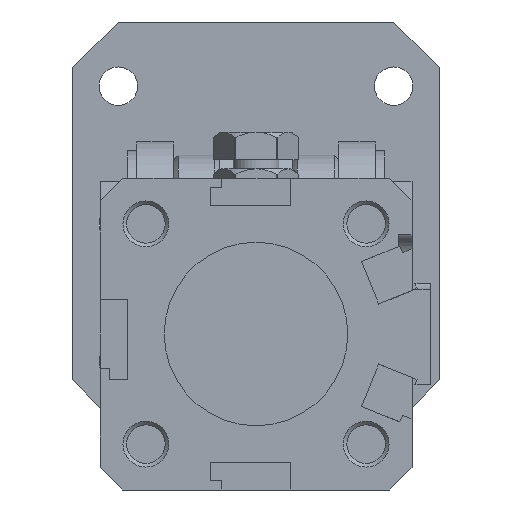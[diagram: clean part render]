
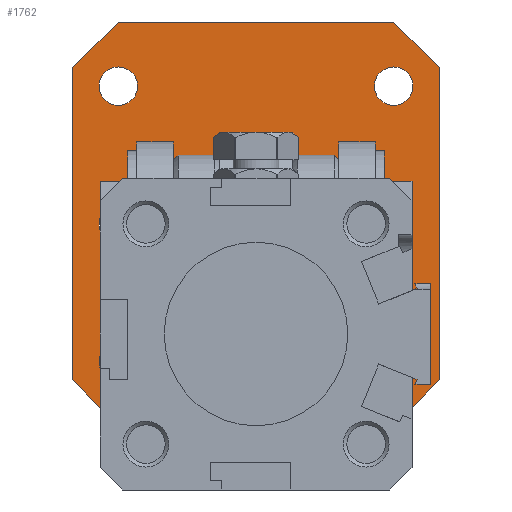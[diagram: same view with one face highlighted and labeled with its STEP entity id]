
A CAD part, front view. The second image highlights one B-rep face of the part: STEP entity #1762.
In plain terms, the highlighted planar face has unit normal (0, -1, 0).
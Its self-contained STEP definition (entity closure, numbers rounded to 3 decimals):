
#1762=ADVANCED_FACE('',(#10667,#10668,#10669,#10670,#10671,#10672,#10673,
#10674),#3091,.F.);
#3091=PLANE('',#26347);
#4233=LINE('',#34781,#7450);
#4234=LINE('',#34784,#7451);
#4235=LINE('',#34786,#7452);
#4236=LINE('',#34788,#7453);
#4237=LINE('',#34790,#7454);
#4238=LINE('',#34792,#7455);
#4239=LINE('',#34794,#7456);
#4240=LINE('',#34796,#7457);
#4241=LINE('',#34797,#7458);
#4242=LINE('',#34800,#7459);
#4243=LINE('',#34802,#7460);
#4244=LINE('',#34804,#7461);
#7450=VECTOR('',#28091,1.);
#7451=VECTOR('',#28092,1.);
#7452=VECTOR('',#28093,1.);
#7453=VECTOR('',#28094,1.);
#7454=VECTOR('',#28095,1.);
#7455=VECTOR('',#28096,1.);
#7456=VECTOR('',#28097,1.);
#7457=VECTOR('',#28098,1.);
#7458=VECTOR('',#28099,1.);
#7459=VECTOR('',#28100,1.);
#7460=VECTOR('',#28101,1.);
#7461=VECTOR('',#28102,1.);
#10667=FACE_BOUND('',#10885,.T.);
#10668=FACE_BOUND('',#10886,.T.);
#10669=FACE_BOUND('',#10887,.T.);
#10670=FACE_BOUND('',#10888,.T.);
#10671=FACE_BOUND('',#10889,.T.);
#10672=FACE_BOUND('',#10890,.T.);
#10673=FACE_BOUND('',#10891,.T.);
#10674=FACE_BOUND('',#10892,.T.);
#10885=EDGE_LOOP('',(#12334));
#10886=EDGE_LOOP('',(#12335));
#10887=EDGE_LOOP('',(#12336));
#10888=EDGE_LOOP('',(#12337));
#10889=EDGE_LOOP('',(#12338));
#10890=EDGE_LOOP('',(#12339));
#10891=EDGE_LOOP('',(#12340,#12341,#12342,#12343,#12344,#12345,#12346,#12347));
#10892=EDGE_LOOP('',(#12348,#12349,#12350,#12351));
#12334=ORIENTED_EDGE('',*,*,#22314,.F.);
#12335=ORIENTED_EDGE('',*,*,#22315,.F.);
#12336=ORIENTED_EDGE('',*,*,#22316,.F.);
#12337=ORIENTED_EDGE('',*,*,#22317,.F.);
#12338=ORIENTED_EDGE('',*,*,#22318,.F.);
#12339=ORIENTED_EDGE('',*,*,#22319,.F.);
#12340=ORIENTED_EDGE('',*,*,#22320,.F.);
#12341=ORIENTED_EDGE('',*,*,#22321,.T.);
#12342=ORIENTED_EDGE('',*,*,#22322,.F.);
#12343=ORIENTED_EDGE('',*,*,#22323,.T.);
#12344=ORIENTED_EDGE('',*,*,#22324,.F.);
#12345=ORIENTED_EDGE('',*,*,#22325,.T.);
#12346=ORIENTED_EDGE('',*,*,#22326,.F.);
#12347=ORIENTED_EDGE('',*,*,#22327,.T.);
#12348=ORIENTED_EDGE('',*,*,#22328,.T.);
#12349=ORIENTED_EDGE('',*,*,#22329,.T.);
#12350=ORIENTED_EDGE('',*,*,#22330,.F.);
#12351=ORIENTED_EDGE('',*,*,#22331,.F.);
#19804=VERTEX_POINT('',#34770);
#19805=VERTEX_POINT('',#34772);
#19806=VERTEX_POINT('',#34774);
#19807=VERTEX_POINT('',#34776);
#19808=VERTEX_POINT('',#34778);
#19809=VERTEX_POINT('',#34780);
#19810=VERTEX_POINT('',#34782);
#19811=VERTEX_POINT('',#34783);
#19812=VERTEX_POINT('',#34785);
#19813=VERTEX_POINT('',#34787);
#19814=VERTEX_POINT('',#34789);
#19815=VERTEX_POINT('',#34791);
#19816=VERTEX_POINT('',#34793);
#19817=VERTEX_POINT('',#34795);
#19818=VERTEX_POINT('',#34798);
#19819=VERTEX_POINT('',#34799);
#19820=VERTEX_POINT('',#34801);
#19821=VERTEX_POINT('',#34803);
#22314=EDGE_CURVE('',#19804,#19804,#26049,.T.);
#22315=EDGE_CURVE('',#19805,#19805,#26050,.T.);
#22316=EDGE_CURVE('',#19806,#19806,#26051,.T.);
#22317=EDGE_CURVE('',#19807,#19807,#26052,.T.);
#22318=EDGE_CURVE('',#19808,#19808,#26053,.T.);
#22319=EDGE_CURVE('',#19809,#19809,#26054,.T.);
#22320=EDGE_CURVE('',#19810,#19811,#4233,.T.);
#22321=EDGE_CURVE('',#19810,#19812,#4234,.T.);
#22322=EDGE_CURVE('',#19813,#19812,#4235,.T.);
#22323=EDGE_CURVE('',#19813,#19814,#4236,.T.);
#22324=EDGE_CURVE('',#19815,#19814,#4237,.T.);
#22325=EDGE_CURVE('',#19815,#19816,#4238,.T.);
#22326=EDGE_CURVE('',#19817,#19816,#4239,.T.);
#22327=EDGE_CURVE('',#19817,#19811,#4240,.T.);
#22328=EDGE_CURVE('',#19818,#19819,#4241,.T.);
#22329=EDGE_CURVE('',#19819,#19820,#4242,.T.);
#22330=EDGE_CURVE('',#19821,#19820,#4243,.T.);
#22331=EDGE_CURVE('',#19818,#19821,#4244,.T.);
#26049=CIRCLE('',#26341,2.1);
#26050=CIRCLE('',#26342,2.1);
#26051=CIRCLE('',#26343,2.1);
#26052=CIRCLE('',#26344,2.1);
#26053=CIRCLE('',#26345,2.1);
#26054=CIRCLE('',#26346,2.1);
#26341=AXIS2_PLACEMENT_3D('',#34769,#28079,#28080);
#26342=AXIS2_PLACEMENT_3D('',#34771,#28081,#28082);
#26343=AXIS2_PLACEMENT_3D('',#34773,#28083,#28084);
#26344=AXIS2_PLACEMENT_3D('',#34775,#28085,#28086);
#26345=AXIS2_PLACEMENT_3D('',#34777,#28087,#28088);
#26346=AXIS2_PLACEMENT_3D('',#34779,#28089,#28090);
#26347=AXIS2_PLACEMENT_3D('',#34805,#28103,#28104);
#28079=DIRECTION('',(0.,-1.,0.));
#28080=DIRECTION('',(1.,0.,0.));
#28081=DIRECTION('',(0.,-1.,0.));
#28082=DIRECTION('',(1.,0.,0.));
#28083=DIRECTION('',(0.,-1.,0.));
#28084=DIRECTION('',(1.,0.,0.));
#28085=DIRECTION('',(0.,-1.,0.));
#28086=DIRECTION('',(1.,0.,0.));
#28087=DIRECTION('',(0.,-1.,0.));
#28088=DIRECTION('',(1.,0.,0.));
#28089=DIRECTION('',(0.,-1.,0.));
#28090=DIRECTION('',(1.,0.,0.));
#28091=DIRECTION('',(0.,0.,-1.));
#28092=DIRECTION('',(-0.707,0.,0.707));
#28093=DIRECTION('',(1.,0.,0.));
#28094=DIRECTION('',(-0.707,0.,-0.707));
#28095=DIRECTION('',(0.,0.,1.));
#28096=DIRECTION('',(0.707,0.,-0.707));
#28097=DIRECTION('',(-1.,0.,0.));
#28098=DIRECTION('',(0.707,0.,0.707));
#28099=DIRECTION('',(-1.,0.,0.));
#28100=DIRECTION('',(0.,0.,1.));
#28101=DIRECTION('',(-1.,0.,0.));
#28102=DIRECTION('',(0.,0.,1.));
#28103=DIRECTION('',(0.,1.,0.));
#28104=DIRECTION('',(-1.,0.,0.));
#34769=CARTESIAN_POINT('',(-15.,44.,12.));
#34770=CARTESIAN_POINT('',(-12.9,44.,12.));
#34771=CARTESIAN_POINT('',(15.,44.,27.));
#34772=CARTESIAN_POINT('',(17.1,44.,27.));
#34773=CARTESIAN_POINT('',(15.,44.,-3.));
#34774=CARTESIAN_POINT('',(17.1,44.,-3.));
#34775=CARTESIAN_POINT('',(15.,44.,12.));
#34776=CARTESIAN_POINT('',(17.1,44.,12.));
#34777=CARTESIAN_POINT('',(-15.,44.,27.));
#34778=CARTESIAN_POINT('',(-12.9,44.,27.));
#34779=CARTESIAN_POINT('',(-15.,44.,-3.));
#34780=CARTESIAN_POINT('',(-12.9,44.,-3.));
#34781=CARTESIAN_POINT('',(20.,44.,29.));
#34782=CARTESIAN_POINT('',(20.,44.,29.));
#34783=CARTESIAN_POINT('',(20.,44.,-5.));
#34784=CARTESIAN_POINT('',(20.,44.,29.));
#34785=CARTESIAN_POINT('',(15.,44.,34.));
#34786=CARTESIAN_POINT('',(-15.,44.,34.));
#34787=CARTESIAN_POINT('',(-15.,44.,34.));
#34788=CARTESIAN_POINT('',(-15.,44.,34.));
#34789=CARTESIAN_POINT('',(-20.,44.,29.));
#34790=CARTESIAN_POINT('',(-20.,44.,-5.));
#34791=CARTESIAN_POINT('',(-20.,44.,-5.));
#34792=CARTESIAN_POINT('',(-20.,44.,-5.));
#34793=CARTESIAN_POINT('',(-10.,44.,-15.));
#34794=CARTESIAN_POINT('',(10.,44.,-15.));
#34795=CARTESIAN_POINT('',(10.,44.,-15.));
#34796=CARTESIAN_POINT('',(10.,44.,-15.));
#34797=CARTESIAN_POINT('',(1.,44.,3.));
#34798=CARTESIAN_POINT('',(4.,44.,3.));
#34799=CARTESIAN_POINT('',(-4.,44.,3.));
#34800=CARTESIAN_POINT('',(-4.,44.,3.));
#34801=CARTESIAN_POINT('',(-4.,44.,21.));
#34802=CARTESIAN_POINT('',(1.,44.,21.));
#34803=CARTESIAN_POINT('',(4.,44.,21.));
#34804=CARTESIAN_POINT('',(4.,44.,3.));
#34805=CARTESIAN_POINT('',(0.,44.,0.));
